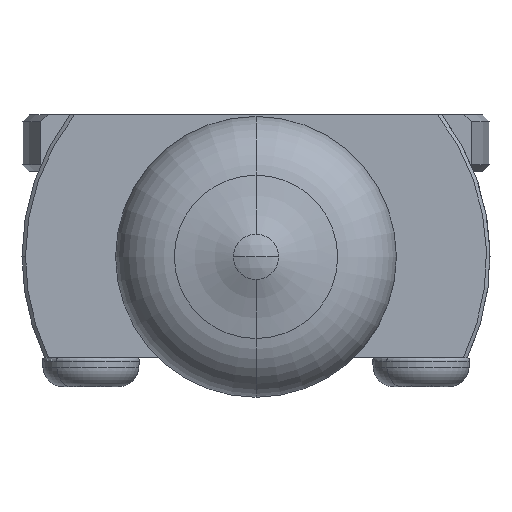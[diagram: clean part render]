
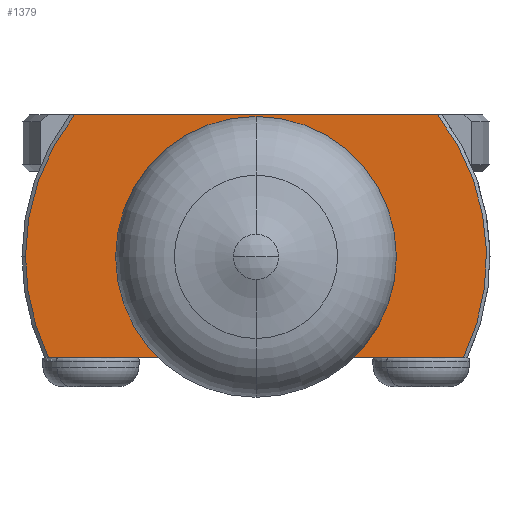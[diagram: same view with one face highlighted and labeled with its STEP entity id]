
A CAD part, left-side view. The second image highlights one B-rep face of the part: STEP entity #1379.
In plain terms, the highlighted planar face has unit normal (-1, 0, 0).
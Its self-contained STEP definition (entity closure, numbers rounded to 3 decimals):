
#470 = DIRECTION ( 'NONE',  ( -1., 0., 0. ) ) ;
#500 = CARTESIAN_POINT ( 'NONE',  ( -2.12, 0., -2.675 ) ) ;
#669 = CARTESIAN_POINT ( 'NONE',  ( -2.12, 4.785, 0. ) ) ;
#855 = DIRECTION ( 'NONE',  ( 1., 0., 0. ) ) ;
#972 = CARTESIAN_POINT ( 'NONE',  ( -2.12, 5.984, -2.9 ) ) ;
#1127 = CARTESIAN_POINT ( 'NONE',  ( -2.12, 5.44, -2.9 ) ) ;
#1270 = DIRECTION ( 'NONE',  ( 0., 1., 0. ) ) ;
#1329 = ORIENTED_EDGE ( 'NONE', *, *, #6344, .T. ) ;
#1379 = ADVANCED_FACE ( 'NONE', ( #13582, #13412 ), #12230, .T. ) ;
#1563 = CARTESIAN_POINT ( 'NONE',  ( -2.12, 0., 2.675 ) ) ;
#1700 = DIRECTION ( 'NONE',  ( 0., 0.707, 0.707 ) ) ;
#1735 = CARTESIAN_POINT ( 'NONE',  ( -2.12, 0., 0. ) ) ;
#2179 = CIRCLE ( 'NONE', #12518, 2.675 ) ;
#2213 = DIRECTION ( 'NONE',  ( 0., -1., 0. ) ) ;
#2428 = AXIS2_PLACEMENT_3D ( 'NONE', #12422, #855, #6160 ) ;
#3107 = VERTEX_POINT ( 'NONE', #972 ) ;
#3412 = CARTESIAN_POINT ( 'NONE',  ( -2.12, -5.236, 4.1 ) ) ;
#3424 = VERTEX_POINT ( 'NONE', #3412 ) ;
#3553 = AXIS2_PLACEMENT_3D ( 'NONE', #4127, #11461, #13756 ) ;
#3693 = EDGE_CURVE ( 'NONE', #3107, #13161, #9662, .T. ) ;
#3738 = EDGE_CURVE ( 'NONE', #3107, #6852, #4040, .T. ) ;
#4040 = LINE ( 'NONE', #1127, #8008 ) ;
#4095 = AXIS2_PLACEMENT_3D ( 'NONE', #5215, #4145, #5293 ) ;
#4127 = CARTESIAN_POINT ( 'NONE',  ( -2.12, 0., 0. ) ) ;
#4145 = DIRECTION ( 'NONE',  ( -1., 0., 0. ) ) ;
#4681 = AXIS2_PLACEMENT_3D ( 'NONE', #669, #470, #1700 ) ;
#4803 = EDGE_CURVE ( 'NONE', #9014, #8435, #8162, .T. ) ;
#5215 = CARTESIAN_POINT ( 'NONE',  ( -2.12, 0., 0. ) ) ;
#5293 = DIRECTION ( 'NONE',  ( 0., 0., 1. ) ) ;
#5881 = EDGE_CURVE ( 'NONE', #13161, #9381, #8517, .T. ) ;
#6160 = DIRECTION ( 'NONE',  ( 0., 1., 0. ) ) ;
#6344 = EDGE_CURVE ( 'NONE', #3424, #9381, #7761, .T. ) ;
#6852 = VERTEX_POINT ( 'NONE', #13562 ) ;
#7144 = EDGE_LOOP ( 'NONE', ( #9881, #13720 ) ) ;
#7332 = DIRECTION ( 'NONE',  ( 0., 0., 1. ) ) ;
#7761 = LINE ( 'NONE', #11766, #10765 ) ;
#8008 = VECTOR ( 'NONE', #2213, 1000. ) ;
#8162 = CIRCLE ( 'NONE', #4095, 2.675 ) ;
#8435 = VERTEX_POINT ( 'NONE', #1563 ) ;
#8517 = CIRCLE ( 'NONE', #11838, 6.65 ) ;
#9014 = VERTEX_POINT ( 'NONE', #500 ) ;
#9089 = ORIENTED_EDGE ( 'NONE', *, *, #3738, .T. ) ;
#9339 = ORIENTED_EDGE ( 'NONE', *, *, #11430, .F. ) ;
#9381 = VERTEX_POINT ( 'NONE', #11185 ) ;
#9575 = ORIENTED_EDGE ( 'NONE', *, *, #5881, .F. ) ;
#9662 = CIRCLE ( 'NONE', #3553, 6.65 ) ;
#9666 = ORIENTED_EDGE ( 'NONE', *, *, #3693, .F. ) ;
#9881 = ORIENTED_EDGE ( 'NONE', *, *, #10968, .F. ) ;
#10155 = DIRECTION ( 'NONE',  ( 1., 0., 0. ) ) ;
#10765 = VECTOR ( 'NONE', #1270, 1000. ) ;
#10968 = EDGE_CURVE ( 'NONE', #8435, #9014, #2179, .T. ) ;
#11185 = CARTESIAN_POINT ( 'NONE',  ( -2.12, 5.236, 4.1 ) ) ;
#11430 = EDGE_CURVE ( 'NONE', #3424, #6852, #12474, .T. ) ;
#11461 = DIRECTION ( 'NONE',  ( 1., 0., 0. ) ) ;
#11656 = DIRECTION ( 'NONE',  ( -1., 0., 0. ) ) ;
#11766 = CARTESIAN_POINT ( 'NONE',  ( -2.12, -0.289, 4.1 ) ) ;
#11838 = AXIS2_PLACEMENT_3D ( 'NONE', #1735, #10155, #12413 ) ;
#12019 = CARTESIAN_POINT ( 'NONE',  ( -2.12, 6.65, 0. ) ) ;
#12230 = PLANE ( 'NONE',  #4681 ) ;
#12413 = DIRECTION ( 'NONE',  ( 0., 1., 0. ) ) ;
#12422 = CARTESIAN_POINT ( 'NONE',  ( -2.12, 0., 0. ) ) ;
#12474 = CIRCLE ( 'NONE', #2428, 6.65 ) ;
#12494 = EDGE_LOOP ( 'NONE', ( #9089, #9339, #1329, #9575, #9666 ) ) ;
#12518 = AXIS2_PLACEMENT_3D ( 'NONE', #12669, #11656, #7332 ) ;
#12669 = CARTESIAN_POINT ( 'NONE',  ( -2.12, 0., 0. ) ) ;
#13161 = VERTEX_POINT ( 'NONE', #12019 ) ;
#13412 = FACE_OUTER_BOUND ( 'NONE', #12494, .T. ) ;
#13562 = CARTESIAN_POINT ( 'NONE',  ( -2.12, -5.984, -2.9 ) ) ;
#13582 = FACE_BOUND ( 'NONE', #7144, .T. ) ;
#13720 = ORIENTED_EDGE ( 'NONE', *, *, #4803, .F. ) ;
#13756 = DIRECTION ( 'NONE',  ( 0., 1., 0. ) ) ;
